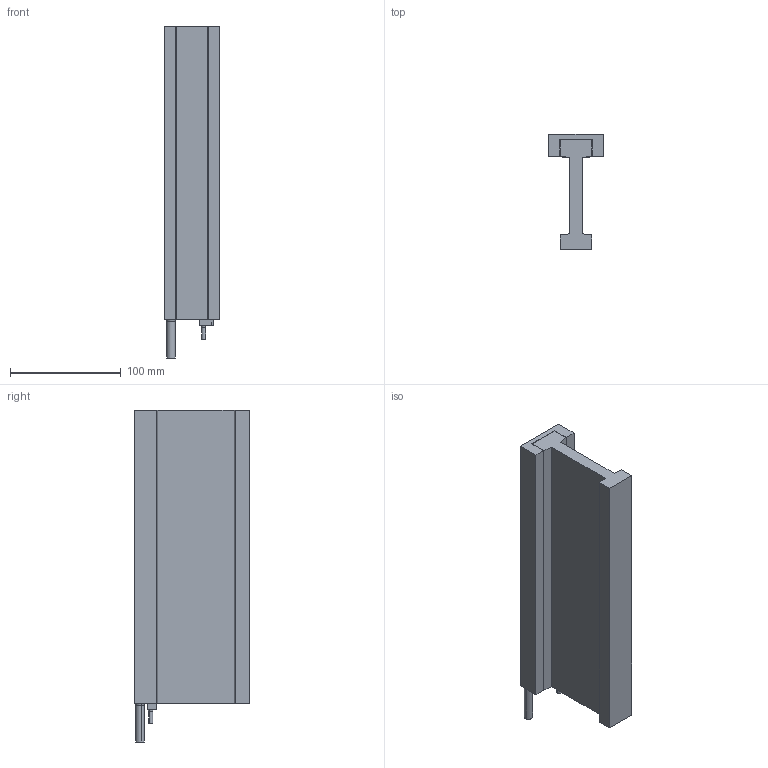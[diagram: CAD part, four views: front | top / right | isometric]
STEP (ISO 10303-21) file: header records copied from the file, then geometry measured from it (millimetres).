
FILE_DESCRIPTION (( 'STEP AP214' ), '1' );
FILE_NAME ('DX65F-C4.step', '2022-09-22T03:37:33', ( '' ), ( '' ), 'SwSTEP 2.0', 'SolidWorks 2020', '' );
FILE_SCHEMA (( 'AUTOMOTIVE_DESIGN' ));
Length unit declared in the file: millimetre
Products named in the file (1): DX65F-C4
Bounding box: 49 x 104 x 300 mm (x, y, z)
Volume: 569501.8 mm3; surface area: 129682.5 mm2
Topology: 7 solids, 7 shells, 174 faces, 400 edges, 235 vertices
Faces by surface type: plane 80, cylinder 52, cone 34, torus 8
Entity records: 6758 total; most frequent: DIRECTION 854, CARTESIAN_POINT 852, ORIENTED_EDGE 748, EDGE_CURVE 374, AXIS2_PLACEMENT_3D 309, LINE 236, VECTOR 236, VERTEX_POINT 235
